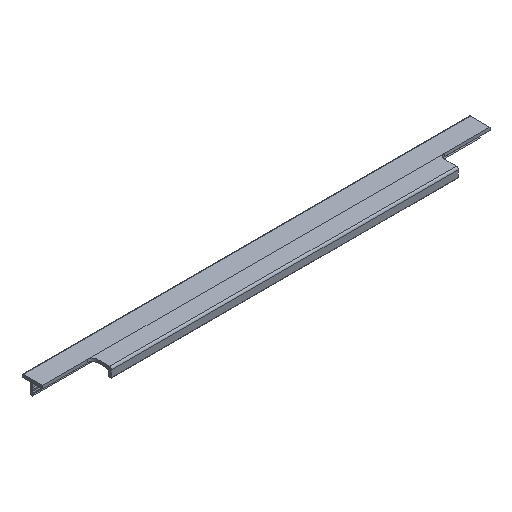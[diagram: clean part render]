
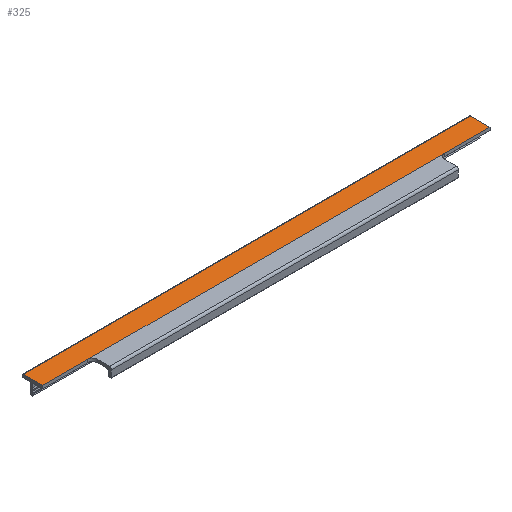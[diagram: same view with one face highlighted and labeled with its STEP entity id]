
A CAD part, isometric view. The second image highlights one B-rep face of the part: STEP entity #325.
In plain terms, the highlighted planar face has unit normal (0, 0, 1).
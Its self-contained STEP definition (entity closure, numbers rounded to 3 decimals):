
#283 = VERTEX_POINT( '', #758 );
#317 = VERTEX_POINT( '', #793 );
#325 = ADVANCED_FACE( '', ( #801 ), #802, .T. );
#331 = VERTEX_POINT( '', #809 );
#379 = EDGE_CURVE( '', #543, #463, #862, .T. );
#463 = VERTEX_POINT( '', #952 );
#471 = EDGE_CURVE( '', #331, #283, #961, .T. );
#543 = VERTEX_POINT( '', #1040 );
#567 = EDGE_CURVE( '', #283, #661, #1065, .T. );
#583 = EDGE_CURVE( '', #317, #543, #1081, .T. );
#603 = EDGE_CURVE( '', #317, #331, #1105, .T. );
#637 = EDGE_CURVE( '', #661, #463, #1141, .T. );
#661 = VERTEX_POINT( '', #1168 );
#758 = CARTESIAN_POINT( '', ( 177.5, -11., 3. ) );
#793 = CARTESIAN_POINT( '', ( 222.5, 8.286, 3. ) );
#801 = FACE_OUTER_BOUND( '', #1340, .T. );
#802 = PLANE( '', #1341 );
#809 = CARTESIAN_POINT( '', ( 222.5, -11., 3. ) );
#862 = LINE( '', #1423, #1424 );
#952 = CARTESIAN_POINT( '', ( -222.5, -11., 3. ) );
#961 = LINE( '', #1557, #1558 );
#1040 = CARTESIAN_POINT( '', ( -222.5, 8.286, 3. ) );
#1065 = LINE( '', #1707, #1708 );
#1081 = LINE( '', #1733, #1734 );
#1105 = LINE( '', #1765, #1766 );
#1141 = LINE( '', #1814, #1815 );
#1168 = CARTESIAN_POINT( '', ( -177.5, -11., 3. ) );
#1340 = EDGE_LOOP( '', ( #2016, #2017, #2018, #2019, #2020, #2021 ) );
#1341 = AXIS2_PLACEMENT_3D( '', #2022, #2023, #2024 );
#1423 = CARTESIAN_POINT( '', ( -222.5, 8.286, 3. ) );
#1424 = VECTOR( '', #2096, 1. );
#1557 = CARTESIAN_POINT( '', ( 222.5, -11., 3. ) );
#1558 = VECTOR( '', #2194, 1. );
#1707 = CARTESIAN_POINT( '', ( 222.5, -11., 3. ) );
#1708 = VECTOR( '', #2291, 1. );
#1733 = CARTESIAN_POINT( '', ( 222.5, 8.286, 3. ) );
#1734 = VECTOR( '', #2296, 1. );
#1765 = CARTESIAN_POINT( '', ( 222.5, 8.286, 3. ) );
#1766 = VECTOR( '', #2332, 1. );
#1814 = CARTESIAN_POINT( '', ( 222.5, -11., 3. ) );
#1815 = VECTOR( '', #2357, 1. );
#2016 = ORIENTED_EDGE( '', *, *, #379, .T. );
#2017 = ORIENTED_EDGE( '', *, *, #637, .F. );
#2018 = ORIENTED_EDGE( '', *, *, #567, .F. );
#2019 = ORIENTED_EDGE( '', *, *, #471, .F. );
#2020 = ORIENTED_EDGE( '', *, *, #603, .F. );
#2021 = ORIENTED_EDGE( '', *, *, #583, .T. );
#2022 = CARTESIAN_POINT( '', ( 222.5, 8.286, 3. ) );
#2023 = DIRECTION( '', ( 0., 0., 1. ) );
#2024 = DIRECTION( '', ( 0., 1., 0. ) );
#2096 = DIRECTION( '', ( 0., -1., 0. ) );
#2194 = DIRECTION( '', ( -1., 0., 0. ) );
#2291 = DIRECTION( '', ( -1., 0., 0. ) );
#2296 = DIRECTION( '', ( -1., 0., 0. ) );
#2332 = DIRECTION( '', ( 0., -1., 0. ) );
#2357 = DIRECTION( '', ( -1., 0., 0. ) );
